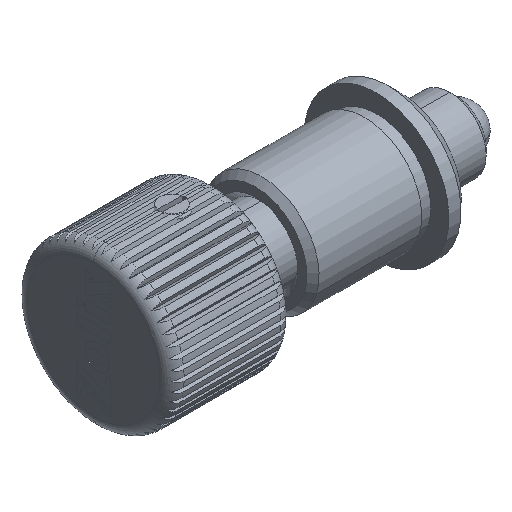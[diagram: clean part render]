
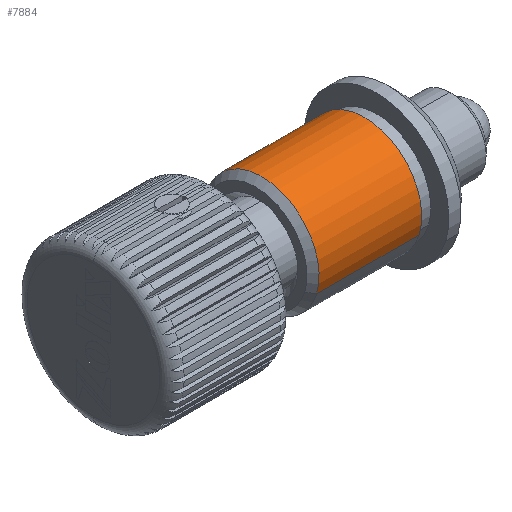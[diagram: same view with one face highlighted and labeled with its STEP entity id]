
A CAD part, isometric view. The second image highlights one B-rep face of the part: STEP entity #7884.
In plain terms, the highlighted cylindrical face has radius 4.75 mm (diameter 9.5 mm), a partial arc.
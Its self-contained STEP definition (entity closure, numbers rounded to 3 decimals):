
#457 = AXIS2_PLACEMENT_3D ( 'NONE', #3831, #9337, #4616 ) ;
#686 = ORIENTED_EDGE ( 'NONE', *, *, #4829, .T. ) ;
#896 = CARTESIAN_POINT ( 'NONE',  ( 27.141, 0., 0. ) ) ;
#907 = VECTOR ( 'NONE', #5163, 1000. ) ;
#1054 = DIRECTION ( 'NONE',  ( 1., 0., 0. ) ) ;
#1260 = EDGE_CURVE ( 'NONE', #4102, #9564, #8097, .T. ) ;
#1424 = EDGE_CURVE ( 'NONE', #7792, #9564, #3660, .T. ) ;
#1451 = AXIS2_PLACEMENT_3D ( 'NONE', #8410, #9214, #2949 ) ;
#1600 = AXIS2_PLACEMENT_3D ( 'NONE', #896, #6360, #4061 ) ;
#2252 = EDGE_LOOP ( 'NONE', ( #8368, #686, #3264, #9658 ) ) ;
#2259 = VERTEX_POINT ( 'NONE', #3248 ) ;
#2949 = DIRECTION ( 'NONE',  ( 0., -0.956, -0.295 ) ) ;
#3248 = CARTESIAN_POINT ( 'NONE',  ( 13.925, 4.539, 1.401 ) ) ;
#3264 = ORIENTED_EDGE ( 'NONE', *, *, #1424, .T. ) ;
#3392 = CARTESIAN_POINT ( 'NONE',  ( 22.425, 4.539, 1.401 ) ) ;
#3660 = LINE ( 'NONE', #4227, #5623 ) ;
#3831 = CARTESIAN_POINT ( 'NONE',  ( 22.425, 0., 0. ) ) ;
#3926 = CARTESIAN_POINT ( 'NONE',  ( 13.925, -4.539, -1.401 ) ) ;
#4061 = DIRECTION ( 'NONE',  ( 0., -0.956, -0.295 ) ) ;
#4102 = VERTEX_POINT ( 'NONE', #3392 ) ;
#4227 = CARTESIAN_POINT ( 'NONE',  ( 27.141, -4.539, -1.401 ) ) ;
#4616 = DIRECTION ( 'NONE',  ( 0., -0.956, -0.295 ) ) ;
#4829 = EDGE_CURVE ( 'NONE', #2259, #7792, #10160, .T. ) ;
#5163 = DIRECTION ( 'NONE',  ( 1., 0., 0. ) ) ;
#5614 = FACE_OUTER_BOUND ( 'NONE', #2252, .T. ) ;
#5623 = VECTOR ( 'NONE', #1054, 1000. ) ;
#6089 = CYLINDRICAL_SURFACE ( 'NONE', #1600, 4.75 ) ;
#6360 = DIRECTION ( 'NONE',  ( 1., 0., 0. ) ) ;
#6931 = CARTESIAN_POINT ( 'NONE',  ( 22.425, -4.539, -1.401 ) ) ;
#7495 = CARTESIAN_POINT ( 'NONE',  ( 27.141, 4.539, 1.401 ) ) ;
#7792 = VERTEX_POINT ( 'NONE', #3926 ) ;
#7884 = ADVANCED_FACE ( 'NONE', ( #5614 ), #6089, .T. ) ;
#8097 = CIRCLE ( 'NONE', #457, 4.75 ) ;
#8116 = EDGE_CURVE ( 'NONE', #2259, #4102, #9887, .T. ) ;
#8368 = ORIENTED_EDGE ( 'NONE', *, *, #8116, .F. ) ;
#8410 = CARTESIAN_POINT ( 'NONE',  ( 13.925, 0., 0. ) ) ;
#9214 = DIRECTION ( 'NONE',  ( 1., 0., 0. ) ) ;
#9337 = DIRECTION ( 'NONE',  ( 1., 0., 0. ) ) ;
#9564 = VERTEX_POINT ( 'NONE', #6931 ) ;
#9658 = ORIENTED_EDGE ( 'NONE', *, *, #1260, .F. ) ;
#9887 = LINE ( 'NONE', #7495, #907 ) ;
#10160 = CIRCLE ( 'NONE', #1451, 4.75 ) ;
